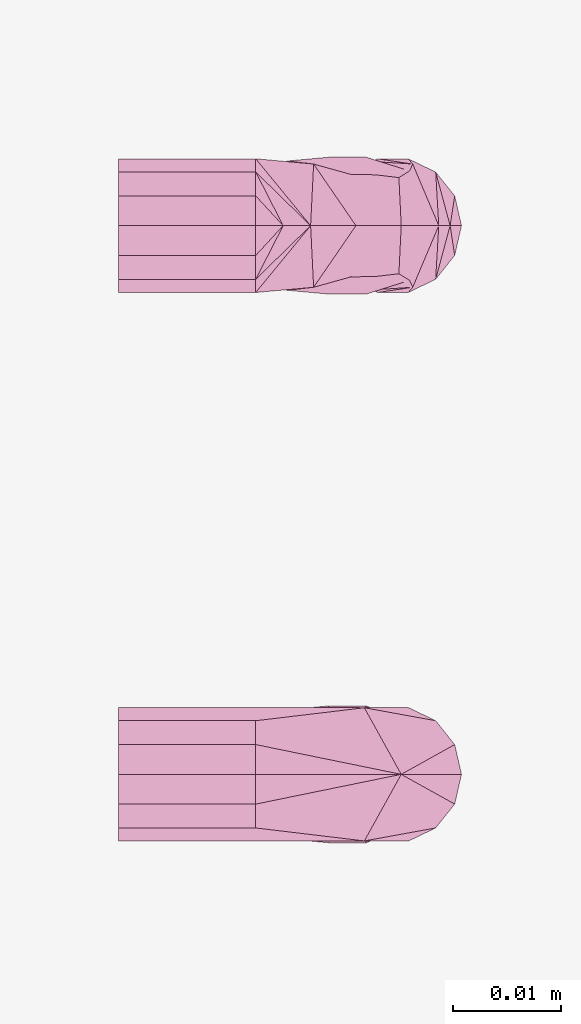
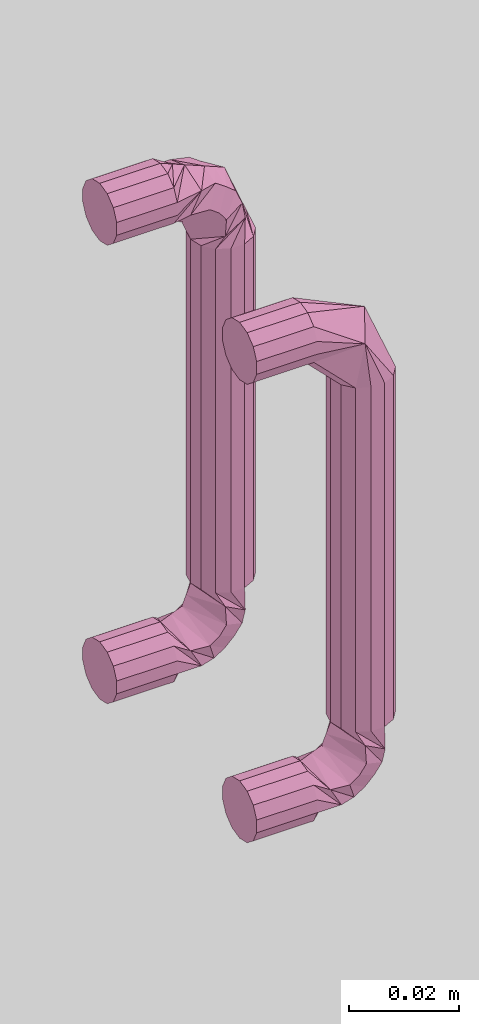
# One storey, part 38 of 40: 1 furnishing.
"""IFC2X3 building model written with IfcOpenShell, lengths in metres."""

import ifcopenshell
import ifcopenshell.guid

model = None  # the IFC model being written
_history = None  # IfcOwnerHistory: only IFC2X3 demands one
_inside = {}  # id of a spatial element -> (the spatial element, [elements in it])
_under = {}  # id of a project, library or spatial element -> (it, [spatial elements below it])
_declared = {}  # id of a project -> (the project, [libraries it declares])
_typed = {}  # id of a type object -> (the type object, [elements of that type])
_made_of = {}  # id of a material, layer set ... -> (it, [elements and type objects made of it])


def new_model(schema):
    """Start an empty IFC model of exactly this schema.

    Asked for "IFC4X3", IfcOpenShell would pick the latest addendum, in which some entities
    have other attributes; the version numbers below select the first issue.
    IFC2X3 requires an IfcOwnerHistory on every rooted entity: one is made here for all.
    """
    global model, _history
    if schema == "IFC4X3":
        model = ifcopenshell.file(schema_version=(4, 3, 0, 0))
    else:
        model = ifcopenshell.file(schema=schema)
    _inside.clear()
    _under.clear()
    _declared.clear()
    _typed.clear()
    _made_of.clear()
    _history = None
    if model.schema == "IFC2X3":
        org = make("IfcOrganization", Name="unknown")
        user = make(
            "IfcPersonAndOrganization",
            ThePerson=make("IfcPerson", FamilyName="unknown"),
            TheOrganization=org,
        )
        app = make(
            "IfcApplication",
            ApplicationDeveloper=org,
            Version="unknown",
            ApplicationFullName="unknown",
            ApplicationIdentifier="unknown",
        )
        _history = make(
            "IfcOwnerHistory",
            OwningUser=user,
            OwningApplication=app,
            ChangeAction="ADDED",
            CreationDate=0,
        )
    return model


def make(cls, **values):
    """One entity of the class cls with the attributes given. An attribute that is None is left unset."""
    return model.create_entity(
        cls, **{name: value for name, value in values.items() if value is not None}
    )


def entity(cls, *values):
    """Any entity or typed value of the class cls, its attributes in the order of the schema. None: left unset."""
    e = model.create_entity(cls)
    for i, value in enumerate(values):
        if value is not None:
            e[i] = value
    return e


def rooted(cls, **values):
    """An entity with a GlobalId (a new one), such as an element, a storey or a relation."""
    return make(cls, GlobalId=ifcopenshell.guid.new(), OwnerHistory=_history, **values)


def si_unit(unit_type, name, prefix=None):
    """IfcSIUnit, for example si_unit("LENGTHUNIT", "METRE", prefix="MILLI")."""
    return make("IfcSIUnit", UnitType=unit_type, Prefix=prefix, Name=name)


def converted_unit(unit_type, name, factor, base, dimensions=None, offset=None):
    """IfcConversionBasedUnit, such as the inch: factor (a typed value) times the base unit."""
    return make(
        "IfcConversionBasedUnit"
        if offset is None
        else "IfcConversionBasedUnitWithOffset",
        ConversionOffset=offset,
        Dimensions=None
        if dimensions is None
        else entity("IfcDimensionalExponents", *dimensions),
        UnitType=unit_type,
        Name=name,
        ConversionFactor=make(
            "IfcMeasureWithUnit", ValueComponent=factor, UnitComponent=base
        ),
    )


def derived_unit(unit_type, elements):
    """IfcDerivedUnit: a product of units, each with its exponent."""
    return make(
        "IfcDerivedUnit",
        Elements=[
            make("IfcDerivedUnitElement", Unit=unit, Exponent=power)
            for unit, power in elements
        ],
        UnitType=unit_type,
    )


def assignment(units):
    """IfcUnitAssignment: the units of a project."""
    return None if units is None else make("IfcUnitAssignment", Units=units)


def point(xyz):
    """IfcCartesianPoint."""
    return None if xyz is None else make("IfcCartesianPoint", Coordinates=xyz)


def direction(xyz):
    """IfcDirection."""
    return None if xyz is None else make("IfcDirection", DirectionRatios=xyz)


def frame(location, z_axis=None, x_axis=None):
    """IfcAxis2Placement3D, a coordinate frame: its origin and axes. An axis left out is left unset."""
    return make(
        "IfcAxis2Placement3D",
        Location=point(location),
        Axis=direction(z_axis),
        RefDirection=direction(x_axis),
    )


def origin():
    """The frame at (0, 0, 0) with its axes left unset."""
    return frame((0.0, 0.0, 0.0))


def place(relative_to, where):
    """IfcLocalPlacement: puts the frame where relative to a parent placement (None: the world)."""
    return make(
        "IfcLocalPlacement", PlacementRelTo=relative_to, RelativePlacement=where
    )


def context(
    kind, dimensions, precision=None, world=None, true_north=None, identifier=None
):
    """IfcGeometricRepresentationContext, for example the 3D "Model" context."""
    return make(
        "IfcGeometricRepresentationContext",
        ContextIdentifier=identifier,
        ContextType=kind,
        CoordinateSpaceDimension=dimensions,
        Precision=precision,
        WorldCoordinateSystem=world,
        TrueNorth=true_north,
    )


def subcontext(parent, identifier, kind, view, scale=None):
    """IfcGeometricRepresentationSubContext, for example "Body" below "Model"."""
    return make(
        "IfcGeometricRepresentationSubContext",
        ContextIdentifier=identifier,
        ContextType=kind,
        ParentContext=parent,
        TargetScale=scale,
        TargetView=view,
    )


def project(units=None, contexts=None):
    """IfcProject with its units and contexts."""
    return rooted(
        "IfcProject",
        Name="project",
        RepresentationContexts=contexts,
        UnitsInContext=assignment(units),
    )


def spatial(cls, under=None, at=None, **own):
    """A site, building, storey or space (cls), placed at a placement, below another one or the project."""
    s = rooted(cls, ObjectPlacement=at, **own)
    if under is not None:
        _under.setdefault(under.id(), (under, []))[1].append(s)
    return s


def faces_of(points, faces, orient=None, outer=None):
    """IfcFace entities. A face is a list of loops; a loop is a list of indices into points, from 0.

    orient and outer hold one flag for each loop. By default every Orientation is true, the
    first loop of a face is its IfcFaceOuterBound and the others are IfcFaceBound.
    """
    made = []
    for i, loops in enumerate(faces):
        bounds = []
        for j, loop in enumerate(loops):
            is_outer = j == 0 if outer is None else outer[i][j]
            bounds.append(
                make(
                    "IfcFaceOuterBound" if is_outer else "IfcFaceBound",
                    Bound=make("IfcPolyLoop", Polygon=[points[k] for k in loop]),
                    Orientation=True if orient is None else orient[i][j],
                )
            )
        made.append(make("IfcFace", Bounds=bounds))
    return made


def faceted_brep(points, faces, orient=None, outer=None, voids=None):
    """IfcFacetedBrep: a solid bounded by flat faces; with voids (closed shells), ...WithVoids."""
    shared = [point(p) for p in points]
    hull = make("IfcClosedShell", CfsFaces=faces_of(shared, faces, orient, outer))
    if voids is None:
        return make("IfcFacetedBrep", Outer=hull)
    return make(
        "IfcFacetedBrepWithVoids",
        Outer=hull,
        Voids=[
            make(cls, CfsFaces=faces_of(shared, fs, o, b)) for cls, fs, o, b in voids
        ],
    )


def shape(context_of_items, identifier, shape_type, items):
    """IfcShapeRepresentation: the items that make up one representation, for example the "Body"."""
    return make(
        "IfcShapeRepresentation",
        ContextOfItems=context_of_items,
        RepresentationIdentifier=identifier,
        RepresentationType=shape_type,
        Items=items,
    )


def source(mapping_origin, context_of_items, identifier, shape_type, items):
    """IfcRepresentationMap: a shape defined once, which mapped items show again and again."""
    return make(
        "IfcRepresentationMap",
        MappingOrigin=mapping_origin,
        MappedRepresentation=shape(context_of_items, identifier, shape_type, items),
    )


def transform(
    local_origin,
    x_axis=None,
    y_axis=None,
    z_axis=None,
    scale=None,
    scale2=None,
    scale3=None,
    uniform=True,
):
    """IfcCartesianTransformationOperator3D, or its non-uniform kind. x_axis, y_axis, z_axis: its Axis1, 2, 3."""
    if uniform:
        return make(
            "IfcCartesianTransformationOperator3D",
            Axis1=direction(x_axis),
            Axis2=direction(y_axis),
            LocalOrigin=point(local_origin),
            Scale=scale,
            Axis3=direction(z_axis),
        )
    return make(
        "IfcCartesianTransformationOperator3DnonUniform",
        Axis1=direction(x_axis),
        Axis2=direction(y_axis),
        LocalOrigin=point(local_origin),
        Scale=scale,
        Axis3=direction(z_axis),
        Scale2=scale2,
        Scale3=scale3,
    )


def mapped(mapping_source, mapping_target):
    """IfcMappedItem: shows the shape of a source again, moved by a transform."""
    return make(
        "IfcMappedItem", MappingSource=mapping_source, MappingTarget=mapping_target
    )


def material(Name=None, Category=None):
    """IfcMaterial."""
    return make("IfcMaterial", Name=Name, Category=Category)


def made_of(thing, what):
    """Note that an element or type object is made of a material, layer set ...; save() writes the relation."""
    if what is not None:
        _made_of.setdefault(what.id(), (what, []))[1].append(thing)
    return thing


def type_object(cls, material=None, **own):
    """A type object (cls), such as IfcWallType, which elements share."""
    return made_of(rooted(cls, **own), material)


def type_shapes(of_type, sources):
    """Give a type object the sources (RepresentationMaps) that its elements show as mapped items."""
    of_type.RepresentationMaps = sources


def element(
    cls,
    number,
    at=None,
    inside=None,
    cuts=None,
    type_object=None,
    material=None,
    context=None,
    identifier="Body",
    shape_type=None,
    held_by="IfcProductDefinitionShape",
    body=None,
    shapes=None,
    **own,
):
    """One element of the class cls, such as IfcWall. Its Tag is "e" and its number.

    at: its placement. inside: the storey or other place that contains it. cuts: it is an
    opening in that element (IfcRelVoidsElement). A single representation is given by context,
    identifier, shape_type and body (its items); several are given by shapes. held_by: the class
    of the entity that holds the representations. save() writes the other relations.
    """
    e = rooted(cls, Tag="e%d" % number, ObjectPlacement=at, **own)
    if body is not None:
        shapes = [shape(context, identifier, shape_type, body)]
    if shapes is not None:
        e.Representation = make(held_by, Representations=shapes)
    if inside is not None:
        _inside.setdefault(inside.id(), (inside, []))[1].append(e)
    if cuts is not None:
        rooted(
            "IfcRelVoidsElement", RelatingBuildingElement=cuts, RelatedOpeningElement=e
        )
    if type_object is not None:
        _typed.setdefault(type_object.id(), (type_object, []))[1].append(e)
    return made_of(e, material)


def aggregate(whole, parts):
    """IfcRelAggregates: a whole, such as a stair, and the parts it consists of."""
    return rooted("IfcRelAggregates", RelatingObject=whole, RelatedObjects=parts)


def save(model, path):
    """Write the relations noted so far, then the file.

    IfcRelAggregates (storeys below a building ...), IfcRelContainedInSpatialStructure (elements
    in a storey), IfcRelDefinesByType, IfcRelAssociatesMaterial and IfcRelDeclares: one each for
    every whole, place, type object, material and project.
    """
    for whole, parts in _under.values():
        aggregate(whole, parts)
    for where, things in _inside.values():
        rooted(
            "IfcRelContainedInSpatialStructure",
            RelatedElements=things,
            RelatingStructure=where,
        )
    for kind, things in _typed.values():
        rooted("IfcRelDefinesByType", RelatedObjects=things, RelatingType=kind)
    for what, things in _made_of.values():
        rooted("IfcRelAssociatesMaterial", RelatedObjects=things, RelatingMaterial=what)
    for by, libraries in _declared.values():
        rooted("IfcRelDeclares", RelatingContext=by, RelatedDefinitions=libraries)
    model.write(path)


model = new_model("IFC2X3")

# Units and contexts
model_context = context("Model", 3, precision=1e-05, world=origin(), true_north=direction((6.12303176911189e-17, 1.0)))
body_context = subcontext(model_context, "Body", "Model", "MODEL_VIEW")
ifc_project = project(units=[si_unit("LENGTHUNIT", "METRE"), si_unit("AREAUNIT", "SQUARE_METRE"), si_unit("VOLUMEUNIT", "CUBIC_METRE"), converted_unit("PLANEANGLEUNIT", "DEGREE", entity("IfcRatioMeasure", 0.0174532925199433), si_unit("PLANEANGLEUNIT", "RADIAN"), dimensions=[0, 0, 0, 0, 0, 0, 0]), si_unit("MASSUNIT", "GRAM", prefix="KILO"), derived_unit("MASSDENSITYUNIT", [(si_unit("MASSUNIT", "GRAM", prefix="KILO"), 1), (si_unit("LENGTHUNIT", "METRE"), -3)]), si_unit("TIMEUNIT", "SECOND"), si_unit("FREQUENCYUNIT", "HERTZ"), si_unit("THERMODYNAMICTEMPERATUREUNIT", "DEGREE_CELSIUS"), derived_unit("THERMALTRANSMITTANCEUNIT", [(si_unit("MASSUNIT", "GRAM", prefix="KILO"), 1), (si_unit("THERMODYNAMICTEMPERATUREUNIT", "KELVIN"), -1), (si_unit("TIMEUNIT", "SECOND"), -3)]), derived_unit("VOLUMETRICFLOWRATEUNIT", [(si_unit("LENGTHUNIT", "METRE"), 3), (si_unit("TIMEUNIT", "SECOND"), -1)]), si_unit("ELECTRICCURRENTUNIT", "AMPERE"), si_unit("ELECTRICVOLTAGEUNIT", "VOLT"), si_unit("POWERUNIT", "WATT"), si_unit("FORCEUNIT", "NEWTON", prefix="KILO"), si_unit("ILLUMINANCEUNIT", "LUX"), si_unit("LUMINOUSFLUXUNIT", "LUMEN"), si_unit("LUMINOUSINTENSITYUNIT", "CANDELA"), derived_unit("USERDEFINED", [(si_unit("MASSUNIT", "GRAM", prefix="KILO"), -1), (si_unit("LENGTHUNIT", "METRE"), -2), (si_unit("TIMEUNIT", "SECOND"), 3), (si_unit("LUMINOUSFLUXUNIT", "LUMEN"), 1)]), derived_unit("LINEARVELOCITYUNIT", [(si_unit("LENGTHUNIT", "METRE"), 1), (si_unit("TIMEUNIT", "SECOND"), -1)]), si_unit("PRESSUREUNIT", "PASCAL"), derived_unit("USERDEFINED", [(si_unit("LENGTHUNIT", "METRE"), -2), (si_unit("MASSUNIT", "GRAM", prefix="KILO"), 1), (si_unit("TIMEUNIT", "SECOND"), -2)])], contexts=[model_context])

# Site, building, storey, space
site_placement = place(None, origin())
site = spatial("IfcSite", under=ifc_project, at=site_placement, Name="Surface", CompositionType="ELEMENT")
building_placement = place(site_placement, origin())
building = spatial("IfcBuilding", under=site, at=building_placement, CompositionType="ELEMENT")
storey_placement = place(building_placement, origin())
storey = spatial("IfcBuildingStorey", under=building, at=storey_placement, Name="RDC", CompositionType="ELEMENT", Elevation=-1.0941605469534e-13)
space_placement = place(storey_placement, origin())
space = spatial("IfcSpace", under=storey, at=space_placement, Name="21", CompositionType="ELEMENT", InteriorOrExteriorSpace="INTERNAL")

# Furnishing
ifc_material = material(Name="Plastique - Noir")
furniture_type = type_object("IfcFurnitureType", Name="590 mm", material=ifc_material)
shared_shape = source(origin(), body_context, "Body", "Brep", [
    faceted_brep([(0.0536136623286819, 0.0, 0.10557833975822), (0.0558231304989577, 0.0, 0.103816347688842), (0.0585782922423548, 0.0, 0.103187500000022), (0.0613334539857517, 0.0, 0.103816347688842), (0.0635429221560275, 0.0, 0.10557833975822), (0.0647690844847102, 0.0, 0.108124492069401), (0.0647690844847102, 0.0, 0.110950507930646), (0.0635429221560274, 0.0, 0.113496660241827), (0.0613334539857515, 0.0, 0.115258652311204), (0.0585782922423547, 0.0, 0.115887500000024), (0.0558231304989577, 0.0, 0.115258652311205), (0.0536136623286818, 0.0, 0.113496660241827), (0.052387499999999, 0.0, 0.110950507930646), (0.052387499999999, 0.0, 0.1081244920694), (0.0585782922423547, 0.0, 0.0142875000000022), (0.0558231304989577, 0.0, 0.0136586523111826), (0.0536136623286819, 0.0, 0.0118966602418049), (0.0523874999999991, 0.0, 0.00935050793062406), (0.0523874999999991, 0.0, 0.00652449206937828), (0.0536136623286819, 0.0, 0.00397833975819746), (0.0558231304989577, 0.0, 0.00221634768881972), (0.0585782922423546, 0.0, 0.00158750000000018), (0.0613334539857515, 0.0, 0.00221634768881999), (0.0635429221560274, 0.0, 0.00397833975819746), (0.0647690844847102, 0.0, 0.00652449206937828), (0.0647690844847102, 0.0, 0.00935050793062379), (0.0635429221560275, 0.0, 0.0118966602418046), (0.0613334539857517, 0.0, 0.0136586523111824), (0.0585782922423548, 0.0127000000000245, 0.103187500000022), (0.0613334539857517, 0.0127000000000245, 0.103816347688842), (0.0635429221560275, 0.0127000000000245, 0.10557833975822), (0.0647690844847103, 0.0127000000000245, 0.108124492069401), (0.0647690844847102, 0.0127000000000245, 0.110950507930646), (0.0647690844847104, 0.0239869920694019, 0.0206375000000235), (0.0647690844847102, 0.0268130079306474, 0.0206375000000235), (0.0647690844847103, 0.0268130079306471, 0.0968375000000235), (0.0647690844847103, 0.0239869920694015, 0.0968375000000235), (0.0647690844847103, 0.0127000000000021, 0.00652449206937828), (0.0647690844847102, 0.0127000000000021, 0.00935050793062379), (0.0635429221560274, 0.0127000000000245, 0.113496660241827), (0.0613334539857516, 0.0127000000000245, 0.115258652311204), (0.0585782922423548, 0.0127000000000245, 0.115887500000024), (0.0558231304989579, 0.0127000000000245, 0.115258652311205), (0.053613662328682, 0.0127000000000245, 0.113496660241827), (0.0523874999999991, 0.0127000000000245, 0.110950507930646), (0.0523874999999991, 0.0127000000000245, 0.1081244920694), (0.0523874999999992, 0.0268130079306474, 0.0206375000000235), (0.0523874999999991, 0.0239869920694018, 0.0206375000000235), (0.0523874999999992, 0.0239869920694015, 0.0968375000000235), (0.0523874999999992, 0.0268130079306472, 0.0968375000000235), (0.0523874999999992, 0.0127000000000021, 0.00935050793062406), (0.0523874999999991, 0.0127000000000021, 0.00652449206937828), (0.0536136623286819, 0.0127000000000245, 0.10557833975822), (0.0558231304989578, 0.0127000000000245, 0.103816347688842), (0.0647426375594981, 0.0227580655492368, 0.106895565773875), (0.0635429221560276, 0.0214408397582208, 0.0968375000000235), (0.0613334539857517, 0.0196788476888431, 0.0968375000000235), (0.0585782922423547, 0.0261703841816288, 0.110307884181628), (0.0585782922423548, 0.0171901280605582, 0.101327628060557), (0.0585782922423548, 0.0190500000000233, 0.0968375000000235), (0.0635429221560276, 0.0293591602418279, 0.0968375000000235), (0.0613334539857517, 0.0311211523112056, 0.0968375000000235), (0.0585782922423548, 0.0317500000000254, 0.0968375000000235), (0.0524139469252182, 0.0227580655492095, 0.106895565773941), (0.0536136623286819, 0.0214408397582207, 0.0968375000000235), (0.0558231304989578, 0.019678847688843, 0.0968375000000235), (0.0536136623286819, 0.029359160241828, 0.0968375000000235), (0.0558231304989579, 0.0311211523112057, 0.0968375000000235), (0.0585782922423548, 0.0190500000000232, 0.0206375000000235), (0.0613334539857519, 0.0196788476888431, 0.0206375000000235), (0.0635429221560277, 0.021440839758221, 0.0206375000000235), (0.0635429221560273, 0.0293591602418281, 0.0206375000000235), (0.0613334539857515, 0.0311211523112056, 0.0206375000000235), (0.0595979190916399, 0.0315172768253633, 0.0206375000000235), (0.0585782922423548, 0.0317500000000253, 0.0206375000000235), (0.0575586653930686, 0.0315172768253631, 0.0206375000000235), (0.055823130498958, 0.0311211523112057, 0.0206375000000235), (0.0536136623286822, 0.0293591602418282, 0.0206375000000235), (0.0536136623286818, 0.0214408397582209, 0.0206375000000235), (0.0558231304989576, 0.019678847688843, 0.0206375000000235), (0.0642824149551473, 0.0180594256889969, 0.00610394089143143), (0.0585782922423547, 0.0177817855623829, 0.00369244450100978), (0.0585782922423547, 0.0198789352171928, 0.00456111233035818), (0.0585782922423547, 0.0219760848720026, 0.00542978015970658), (0.0585782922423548, 0.0314868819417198, 0.0200022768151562), (0.0585782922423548, 0.0306975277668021, 0.018096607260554), (0.0585782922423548, 0.0312237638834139, 0.0193670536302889), (0.064282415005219, 0.0272335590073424, 0.0152780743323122), (0.0585782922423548, 0.0296450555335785, 0.0155557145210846), (0.0585782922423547, 0.0279077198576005, 0.0113614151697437), (0.0633238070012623, 0.0271480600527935, 0.0118331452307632), (0.0585782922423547, 0.0270390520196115, 0.00926426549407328), (0.0632866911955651, 0.0255502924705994, 0.00956794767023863), (0.0649134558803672, 0.0229286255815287, 0.0138673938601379), (0.0585782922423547, 0.0287763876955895, 0.0134585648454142), (0.0630302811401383, 0.0237059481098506, 0.00738339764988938), (0.0585782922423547, 0.0261703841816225, 0.00716711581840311), (0.0645648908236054, 0.0228709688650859, 0.017714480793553), (0.0595979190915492, 0.0127000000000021, 0.00182022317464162), (0.0585782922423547, 0.0127000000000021, 0.00158749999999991), (0.0585782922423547, 0.0133352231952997, 0.00185061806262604), (0.0585782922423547, 0.0139704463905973, 0.00211373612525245), (0.0585782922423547, 0.0152408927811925, 0.00263997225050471), (0.0613334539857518, 0.0127000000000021, 0.00221634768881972), (0.0645648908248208, 0.0156230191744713, 0.010466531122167), (0.0635429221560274, 0.0127000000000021, 0.0118966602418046), (0.0585782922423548, 0.0127000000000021, 0.0142875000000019), (0.0613334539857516, 0.0127000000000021, 0.0136586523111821), (0.0635429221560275, 0.0127000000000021, 0.00397833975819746), (0.0585782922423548, 0.014945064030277, 0.0152174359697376), (0.0585782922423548, 0.0181200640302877, 0.0183924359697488), (0.0585782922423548, 0.0171901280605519, 0.0161473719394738), (0.0649134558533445, 0.0194701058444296, 0.0104088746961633), (0.0649215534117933, 0.0214734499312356, 0.0118640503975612), (0.0636450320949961, 0.0210762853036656, 0.00638969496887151), (0.0585782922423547, 0.0240732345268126, 0.00629844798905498), (0.05287416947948, 0.0272335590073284, 0.0152780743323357), (0.052874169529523, 0.0180594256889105, 0.00610394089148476), (0.0575586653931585, 0.0127000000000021, 0.00182022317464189), (0.0558231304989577, 0.0127000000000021, 0.00221634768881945), (0.0525916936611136, 0.0228709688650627, 0.0177144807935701), (0.0522350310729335, 0.0214734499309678, 0.0118640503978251), (0.0522431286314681, 0.0194701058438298, 0.0104088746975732), (0.0541263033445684, 0.0237059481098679, 0.00738339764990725), (0.0536136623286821, 0.0127000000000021, 0.0118966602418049), (0.0525916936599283, 0.0156230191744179, 0.0104665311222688), (0.0522431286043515, 0.0229286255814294, 0.0138673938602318), (0.0536136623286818, 0.0127000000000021, 0.00397833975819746), (0.0535115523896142, 0.0210762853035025, 0.00638969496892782), (0.0538698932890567, 0.0255502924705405, 0.00956794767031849), (0.0538327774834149, 0.0271480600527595, 0.011833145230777), (0.0558231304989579, 0.0127000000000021, 0.0136586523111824)], [[[0, 1, 2, 3, 4, 5, 6, 7, 8, 9, 10, 11, 12, 13]], [[14, 15, 16, 17, 18, 19, 20, 21, 22, 23, 24, 25, 26, 27]], [[2, 28, 29, 3]], [[29, 30, 4, 3]], [[31, 5, 4, 30]], [[31, 32, 6, 5]], [[33, 34, 35, 36]], [[25, 24, 37, 38]], [[6, 32, 39, 7]], [[39, 40, 8, 7]], [[41, 9, 8, 40]], [[9, 41, 42, 10]], [[42, 43, 11, 10]], [[44, 12, 11, 43]], [[44, 45, 13, 12]], [[46, 47, 48, 49]], [[18, 17, 50, 51]], [[13, 45, 52, 0]], [[52, 53, 1, 0]], [[28, 2, 1, 53]], [[54, 31, 30]], [[55, 30, 29, 56]], [[39, 54, 57]], [[54, 30, 55]], [[41, 40, 57]], [[32, 54, 39]], [[54, 32, 31]], [[39, 57, 40]], [[29, 28, 58]], [[58, 59, 56]], [[60, 54, 35]], [[36, 54, 55]], [[57, 54, 60]], [[57, 61, 62]], [[60, 61, 57]], [[54, 36, 35]], [[58, 56, 29]], [[42, 41, 57]], [[57, 63, 43]], [[57, 43, 42]], [[45, 44, 63]], [[43, 63, 44]], [[64, 65, 53, 52]], [[58, 28, 53]], [[45, 63, 52]], [[49, 48, 63]], [[63, 66, 49]], [[67, 66, 57]], [[64, 63, 48]], [[59, 58, 65]], [[66, 63, 57]], [[65, 58, 53]], [[52, 63, 64]], [[67, 57, 62]], [[59, 68, 69, 56]], [[70, 33, 36, 55]], [[56, 69, 70, 55]], [[34, 71, 60, 35]], [[61, 72, 73, 74, 62]], [[71, 72, 61, 60]], [[62, 74, 75, 76, 67]], [[76, 77, 66, 67]], [[46, 49, 66, 77]], [[48, 47, 78, 64]], [[64, 78, 79, 65]], [[65, 79, 68, 59]], [[80, 81, 82, 83]], [[84, 74, 73, 72, 85, 86]], [[34, 87, 88]], [[71, 85, 72]], [[89, 90, 91]], [[92, 90, 93]], [[87, 89, 94, 88]], [[87, 34, 33]], [[92, 95, 96]], [[87, 33, 70]], [[88, 71, 34]], [[70, 69, 97]], [[98, 99, 100, 101, 102, 103]], [[92, 91, 90]], [[104, 105, 80]], [[104, 106, 107]], [[107, 105, 104]], [[102, 81, 108]], [[88, 85, 71]], [[91, 92, 96]], [[81, 37, 108]], [[104, 109, 106]], [[97, 110, 93]], [[102, 108, 103]], [[70, 97, 87]], [[111, 112, 113]], [[38, 80, 105]], [[80, 38, 37]], [[114, 95, 112]], [[68, 97, 69]], [[90, 97, 93]], [[114, 104, 80]], [[112, 109, 104]], [[110, 97, 68]], [[110, 111, 93]], [[93, 113, 92]], [[92, 113, 95]], [[112, 104, 114]], [[114, 115, 95]], [[89, 87, 90]], [[97, 90, 87]], [[111, 113, 93]], [[95, 113, 112]], [[80, 83, 114]], [[112, 111, 109]], [[115, 114, 83]], [[115, 96, 95]], [[81, 80, 37]], [[75, 74, 84, 86, 85, 76]], [[88, 46, 77]], [[116, 88, 94, 89]], [[117, 83, 82, 81]], [[76, 85, 77]], [[118, 119, 102, 101, 100, 99]], [[78, 120, 79]], [[79, 120, 68]], [[121, 122, 111]], [[123, 122, 121]], [[124, 125, 117]], [[110, 120, 126]], [[47, 116, 78]], [[50, 117, 51]], [[81, 127, 51]], [[116, 47, 46]], [[128, 122, 123]], [[85, 88, 77]], [[88, 116, 46]], [[120, 78, 116]], [[124, 117, 50]], [[127, 102, 119]], [[81, 102, 127]], [[121, 111, 126]], [[91, 129, 130]], [[117, 81, 51]], [[91, 130, 89]], [[91, 96, 129]], [[124, 131, 125]], [[130, 120, 116]], [[126, 111, 110]], [[106, 125, 131]], [[128, 125, 122]], [[126, 130, 129]], [[68, 120, 110]], [[123, 129, 96]], [[121, 126, 129]], [[128, 115, 83]], [[128, 117, 125]], [[120, 130, 126]], [[116, 89, 130]], [[123, 121, 129]], [[125, 109, 122]], [[128, 123, 115]], [[83, 117, 128]], [[123, 96, 115]], [[109, 125, 106]], [[109, 111, 122]], [[106, 14, 27, 107]], [[27, 26, 105, 107]], [[25, 38, 105, 26]], [[37, 24, 23, 108]], [[23, 22, 103, 108]], [[21, 99, 98, 103, 22]], [[99, 21, 20, 119, 118]], [[20, 19, 127, 119]], [[18, 51, 127, 19]], [[50, 17, 16, 124]], [[16, 15, 131, 124]], [[14, 106, 131, 15]]]),
    faceted_brep([(0.00502313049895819, 0.0, 0.103816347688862), (0.00777829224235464, 0.0, 0.103187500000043), (0.0105334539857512, 0.0, 0.103816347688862), (0.0127429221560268, 0.0, 0.10557833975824), (0.0139690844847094, 0.0, 0.10812449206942), (0.0139690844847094, 0.0, 0.110950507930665), (0.0127429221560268, 0.0, 0.113496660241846), (0.0105334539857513, 0.0, 0.115258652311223), (0.00777829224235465, 0.0, 0.115887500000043), (0.00502313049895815, 0.0, 0.115258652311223), (0.00281366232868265, 0.0, 0.113496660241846), (0.00158750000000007, 0.0, 0.110950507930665), (0.00158750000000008, 0.0, 0.10812449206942), (0.00281366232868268, 0.0, 0.10557833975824), (0.0127429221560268, 0.0, 0.003978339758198), (0.0139690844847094, 0.0, 0.00652449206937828), (0.0139690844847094, 0.0, 0.00935050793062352), (0.0127429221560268, 0.0, 0.0118966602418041), (0.0105334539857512, 0.0, 0.0136586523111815), (0.0077782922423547, 0.0, 0.0142875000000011), (0.00502313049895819, 0.0, 0.0136586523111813), (0.00281366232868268, 0.0, 0.0118966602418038), (0.00158750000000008, 0.0, 0.00935050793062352), (0.00158750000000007, 0.0, 0.00652449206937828), (0.00281366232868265, 0.0, 0.003978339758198), (0.00502313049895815, 0.0, 0.00221634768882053), (0.00777829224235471, 0.0, 0.00158750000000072), (0.0105334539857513, 0.0, 0.00221634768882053), (0.0077782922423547, 0.0126999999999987, 0.103187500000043), (0.0105334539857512, 0.0126999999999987, 0.103816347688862), (0.0127429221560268, 0.0126999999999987, 0.10557833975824), (0.0139690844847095, 0.0126999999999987, 0.10812449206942), (0.0139690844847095, 0.0126999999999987, 0.110950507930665), (0.0139690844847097, 0.023986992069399, 0.0206375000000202), (0.0139690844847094, 0.0268130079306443, 0.0206375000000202), (0.0139690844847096, 0.0268130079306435, 0.0968375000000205), (0.0139690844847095, 0.0239869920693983, 0.0968375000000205), (0.0139690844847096, 0.0127000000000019, 0.00652449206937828), (0.0139690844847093, 0.0127000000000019, 0.00935050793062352), (0.012742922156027, 0.0126999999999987, 0.113496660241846), (0.0105334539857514, 0.0126999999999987, 0.115258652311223), (0.00879791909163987, 0.0126999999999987, 0.115654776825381), (0.00777829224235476, 0.0126999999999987, 0.115887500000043), (0.00675866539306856, 0.0126999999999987, 0.11565477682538), (0.00502313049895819, 0.0126999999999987, 0.115258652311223), (0.00281366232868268, 0.0126999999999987, 0.113496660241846), (0.00158750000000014, 0.0126999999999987, 0.110950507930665), (0.00158750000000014, 0.0126999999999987, 0.10812449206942), (0.00158750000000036, 0.0268130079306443, 0.0206375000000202), (0.00158750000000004, 0.0239869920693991, 0.0206375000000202), (0.0015875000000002, 0.0239869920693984, 0.0968375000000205), (0.0015875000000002, 0.0268130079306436, 0.0968375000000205), (0.00158750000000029, 0.0127000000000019, 0.00935050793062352), (0.0015875, 0.0127000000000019, 0.00652449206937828), (0.00281366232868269, 0.0126999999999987, 0.10557833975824), (0.00502313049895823, 0.0126999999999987, 0.103816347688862), (0.0134824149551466, 0.0272335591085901, 0.102196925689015), (0.00777829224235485, 0.0296450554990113, 0.101919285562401), (0.00777829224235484, 0.0287763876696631, 0.104016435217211), (0.00777829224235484, 0.0279077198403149, 0.106113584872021), (0.00777829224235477, 0.0133352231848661, 0.115624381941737), (0.00777829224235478, 0.0152408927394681, 0.114835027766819), (0.00777829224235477, 0.0139704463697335, 0.115361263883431), (0.0134824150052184, 0.0180594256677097, 0.11137105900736), (0.00777829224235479, 0.0177817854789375, 0.113782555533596), (0.00777829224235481, 0.0219760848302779, 0.112045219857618), (0.0125238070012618, 0.0215043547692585, 0.111285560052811), (0.00777829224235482, 0.0240732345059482, 0.111176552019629), (0.0137648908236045, 0.015623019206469, 0.107008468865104), (0.00777829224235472, 0.0149450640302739, 0.102257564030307), (0.0141134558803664, 0.0194701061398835, 0.107066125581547), (0.0077782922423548, 0.0198789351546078, 0.112913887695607), (0.0124866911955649, 0.0237695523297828, 0.109687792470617), (0.0122302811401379, 0.0259541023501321, 0.107843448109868), (0.00777829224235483, 0.0261703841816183, 0.11030788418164), (0.00879791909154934, 0.0315172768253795, 0.0968375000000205), (0.00777829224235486, 0.0317500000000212, 0.0968375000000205), (0.00777829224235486, 0.031486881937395, 0.097472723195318), (0.00777829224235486, 0.0312237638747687, 0.0981079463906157), (0.00777829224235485, 0.0306975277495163, 0.0993783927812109), (0.0105334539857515, 0.0311211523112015, 0.0968375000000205), (0.0137648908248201, 0.022870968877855, 0.0997605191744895), (0.0127429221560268, 0.0214408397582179, 0.0968375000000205), (0.00777829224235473, 0.0190500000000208, 0.0968375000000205), (0.0105334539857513, 0.0196788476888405, 0.0968375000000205), (0.012742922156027, 0.029359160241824, 0.0968375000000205), (0.00777829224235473, 0.0181200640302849, 0.0990825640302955), (0.00777829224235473, 0.017190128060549, 0.101327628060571), (0.0141134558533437, 0.0229286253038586, 0.103607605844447), (0.0141215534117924, 0.0214734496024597, 0.105610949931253), (0.0128450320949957, 0.0269478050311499, 0.105213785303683), (0.00777829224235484, 0.0270390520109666, 0.10821073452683), (0.00207416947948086, 0.0180594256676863, 0.111371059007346), (0.00207416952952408, 0.0272335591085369, 0.102196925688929), (0.00675866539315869, 0.0315172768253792, 0.0968375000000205), (0.0050231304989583, 0.0311211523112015, 0.0968375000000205), (0.00179169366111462, 0.0156230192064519, 0.107008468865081), (0.00143503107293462, 0.0214734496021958, 0.105610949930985), (0.00144312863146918, 0.0229286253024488, 0.103607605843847), (0.00332630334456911, 0.0259541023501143, 0.107843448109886), (0.00281366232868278, 0.0214408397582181, 0.0968375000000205), (0.00179169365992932, 0.0228709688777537, 0.0997605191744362), (0.00281366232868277, 0.029359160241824, 0.0968375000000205), (0.00271155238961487, 0.0269478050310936, 0.10521378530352), (0.00144312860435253, 0.0194701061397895, 0.107066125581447), (0.00306989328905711, 0.0237695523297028, 0.109687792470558), (0.00303277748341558, 0.0215043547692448, 0.111285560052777), (0.00502313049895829, 0.0196788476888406, 0.0968375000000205), (0.00777829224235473, 0.0190500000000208, 0.0206375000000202), (0.0105334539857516, 0.0196788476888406, 0.0206375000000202), (0.0127429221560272, 0.0214408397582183, 0.0206375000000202), (0.0127429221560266, 0.0293591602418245, 0.0206375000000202), (0.0105334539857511, 0.0311211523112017, 0.0206375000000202), (0.00879791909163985, 0.0315172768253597, 0.0206375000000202), (0.00777829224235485, 0.0317500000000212, 0.0206375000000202), (0.00675866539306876, 0.0315172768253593, 0.0206375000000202), (0.00502313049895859, 0.0311211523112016, 0.0206375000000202), (0.00281366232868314, 0.0293591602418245, 0.0206375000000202), (0.00281366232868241, 0.0214408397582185, 0.0206375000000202), (0.005023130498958, 0.0196788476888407, 0.0206375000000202), (0.0134824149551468, 0.0180594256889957, 0.00610394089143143), (0.00777829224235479, 0.0177817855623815, 0.00369244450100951), (0.0077782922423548, 0.0198789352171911, 0.00456111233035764), (0.00777829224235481, 0.0219760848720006, 0.00542978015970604), (0.00777829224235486, 0.0314868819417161, 0.0200022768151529), (0.00777829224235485, 0.0306975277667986, 0.0180966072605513), (0.00777829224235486, 0.0312237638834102, 0.0193670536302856), (0.0134824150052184, 0.0272335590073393, 0.01527807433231), (0.00777829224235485, 0.0296450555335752, 0.0155557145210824), (0.00777829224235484, 0.0279077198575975, 0.0113614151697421), (0.0125238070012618, 0.0271480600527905, 0.0118331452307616), (0.00777829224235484, 0.0270390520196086, 0.00926426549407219), (0.0137648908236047, 0.0228709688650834, 0.0177144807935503), (0.00777829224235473, 0.018120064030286, 0.018392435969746), (0.0141134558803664, 0.0229286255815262, 0.013867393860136), (0.00777829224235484, 0.0287763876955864, 0.0134585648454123), (0.0124866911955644, 0.0255502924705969, 0.00956794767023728), (0.0122302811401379, 0.0237059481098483, 0.00738339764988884), (0.00777829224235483, 0.0261703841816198, 0.0071671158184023), (0.00879791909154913, 0.0127000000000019, 0.00182022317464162), (0.00777829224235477, 0.0127000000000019, 0.00158750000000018), (0.00777829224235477, 0.0133352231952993, 0.00185061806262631), (0.00777829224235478, 0.0139704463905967, 0.00211373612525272), (0.00777829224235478, 0.0152408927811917, 0.00263997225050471), (0.0105334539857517, 0.0127000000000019, 0.00221634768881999), (0.01376489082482, 0.0156230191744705, 0.0104665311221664), (0.0127429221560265, 0.0127000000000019, 0.0118966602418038), (0.0077782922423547, 0.0127000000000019, 0.0142875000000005), (0.0105334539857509, 0.0127000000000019, 0.013658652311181), (0.0127429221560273, 0.0127000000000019, 0.00397833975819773), (0.00777829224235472, 0.0149450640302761, 0.0152174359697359), (0.00777829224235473, 0.0171901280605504, 0.0161473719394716), (0.0141134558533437, 0.0194701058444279, 0.0104088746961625), (0.0141215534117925, 0.021473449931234, 0.0118640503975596), (0.0128450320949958, 0.0210762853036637, 0.00638969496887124), (0.00777829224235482, 0.0240732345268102, 0.00629844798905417), (0.00207416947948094, 0.0272335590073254, 0.0152780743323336), (0.00207416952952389, 0.0180594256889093, 0.00610394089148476), (0.00675866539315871, 0.0127000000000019, 0.00182022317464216), (0.00502313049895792, 0.0127000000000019, 0.00221634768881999), (0.00179169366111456, 0.0228709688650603, 0.0177144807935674), (0.00143503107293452, 0.0214734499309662, 0.0118640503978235), (0.00144312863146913, 0.0194701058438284, 0.0104088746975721), (0.00332630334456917, 0.0237059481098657, 0.00738339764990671), (0.00281366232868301, 0.0127000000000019, 0.0118966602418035), (0.00179169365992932, 0.015623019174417, 0.0104665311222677), (0.00281366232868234, 0.0127000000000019, 0.00397833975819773), (0.00271155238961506, 0.0210762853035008, 0.00638969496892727), (0.0014431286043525, 0.0229286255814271, 0.0138673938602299), (0.00306989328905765, 0.0255502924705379, 0.00956794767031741), (0.00303277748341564, 0.0271480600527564, 0.0118331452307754), (0.00502313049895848, 0.0127000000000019, 0.0136586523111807)], [[[0, 1, 2, 3, 4, 5, 6, 7, 8, 9, 10, 11, 12, 13]], [[14, 15, 16, 17, 18, 19, 20, 21, 22, 23, 24, 25, 26, 27]], [[1, 28, 29, 2]], [[29, 30, 3, 2]], [[31, 4, 3, 30]], [[31, 32, 5, 4]], [[33, 34, 35, 36]], [[16, 15, 37, 38]], [[5, 32, 39, 6]], [[39, 40, 7, 6]], [[7, 40, 41, 42, 8]], [[8, 42, 43, 44, 9]], [[44, 45, 10, 9]], [[46, 11, 10, 45]], [[46, 47, 12, 11]], [[48, 49, 50, 51]], [[23, 22, 52, 53]], [[12, 47, 54, 13]], [[54, 55, 0, 13]], [[28, 1, 0, 55]], [[56, 57, 58, 59]], [[60, 42, 41, 40, 61, 62]], [[32, 63, 64]], [[39, 61, 40]], [[65, 66, 67]], [[68, 69, 70]], [[63, 65, 71, 64]], [[63, 32, 31]], [[72, 73, 74]], [[63, 31, 30]], [[64, 39, 32]], [[30, 29, 68]], [[75, 76, 77, 78, 79, 80]], [[72, 67, 66]], [[81, 82, 56]], [[81, 83, 84]], [[84, 82, 81]], [[79, 57, 85]], [[64, 61, 39]], [[67, 72, 74]], [[57, 35, 85]], [[81, 86, 83]], [[68, 28, 69]], [[79, 85, 80]], [[30, 68, 63]], [[87, 88, 89]], [[36, 56, 82]], [[56, 36, 35]], [[90, 73, 88]], [[28, 68, 29]], [[66, 68, 70]], [[90, 81, 56]], [[88, 86, 81]], [[72, 66, 70]], [[87, 70, 69]], [[70, 89, 72]], [[72, 89, 73]], [[88, 81, 90]], [[90, 91, 73]], [[65, 63, 66]], [[68, 66, 63]], [[87, 89, 70]], [[73, 89, 88]], [[56, 59, 90]], [[88, 87, 86]], [[91, 90, 59]], [[91, 74, 73]], [[57, 56, 35]], [[43, 42, 60, 62, 61, 44]], [[64, 46, 45]], [[92, 64, 71, 65]], [[93, 59, 58, 57]], [[44, 61, 45]], [[94, 95, 79, 78, 77, 76]], [[54, 96, 55]], [[55, 96, 28]], [[97, 98, 87]], [[99, 98, 97]], [[100, 101, 93]], [[69, 28, 96]], [[47, 92, 54]], [[50, 93, 51]], [[57, 102, 51]], [[92, 47, 46]], [[103, 98, 99]], [[61, 64, 45]], [[64, 92, 46]], [[96, 54, 92]], [[100, 93, 50]], [[102, 79, 95]], [[57, 79, 102]], [[97, 87, 104]], [[67, 105, 106]], [[93, 57, 51]], [[67, 106, 65]], [[67, 74, 105]], [[100, 107, 101]], [[106, 96, 92]], [[104, 69, 96]], [[83, 101, 107]], [[103, 101, 98]], [[104, 87, 69]], [[104, 106, 105]], [[99, 105, 74]], [[97, 104, 105]], [[103, 91, 59]], [[103, 93, 101]], [[96, 106, 104]], [[92, 65, 106]], [[99, 97, 105]], [[101, 86, 98]], [[103, 99, 91]], [[59, 93, 103]], [[99, 74, 91]], [[86, 101, 83]], [[86, 87, 98]], [[83, 108, 109, 84]], [[109, 110, 82, 84]], [[33, 36, 82, 110]], [[35, 34, 111, 85]], [[85, 111, 112, 80]], [[80, 112, 113, 114, 76, 75]], [[76, 114, 115, 116, 95, 94]], [[117, 48, 51, 102]], [[95, 116, 117, 102]], [[49, 118, 100, 50]], [[119, 108, 83, 107]], [[118, 119, 107, 100]], [[120, 121, 122, 123]], [[124, 114, 113, 112, 125, 126]], [[34, 127, 128]], [[111, 125, 112]], [[129, 130, 131]], [[132, 133, 134]], [[127, 129, 135, 128]], [[127, 34, 33]], [[136, 137, 138]], [[127, 33, 110]], [[128, 111, 34]], [[110, 109, 132]], [[139, 140, 141, 142, 143, 144]], [[136, 131, 130]], [[145, 146, 120]], [[145, 147, 148]], [[148, 146, 145]], [[143, 121, 149]], [[128, 125, 111]], [[131, 136, 138]], [[121, 37, 149]], [[145, 150, 147]], [[132, 108, 133]], [[143, 149, 144]], [[110, 132, 127]], [[151, 152, 153]], [[38, 120, 146]], [[120, 38, 37]], [[154, 137, 152]], [[108, 132, 109]], [[130, 132, 134]], [[154, 145, 120]], [[152, 150, 145]], [[136, 130, 134]], [[151, 134, 133]], [[134, 153, 136]], [[136, 153, 137]], [[152, 145, 154]], [[154, 155, 137]], [[129, 127, 130]], [[132, 130, 127]], [[151, 153, 134]], [[137, 153, 152]], [[120, 123, 154]], [[152, 151, 150]], [[155, 154, 123]], [[155, 138, 137]], [[121, 120, 37]], [[115, 114, 124, 126, 125, 116]], [[128, 48, 117]], [[156, 128, 135, 129]], [[157, 123, 122, 121]], [[116, 125, 117]], [[158, 159, 143, 142, 141, 140]], [[118, 160, 119]], [[119, 160, 108]], [[161, 162, 151]], [[163, 162, 161]], [[164, 165, 157]], [[133, 108, 160]], [[49, 156, 118]], [[52, 157, 53]], [[121, 166, 53]], [[156, 49, 48]], [[167, 162, 163]], [[125, 128, 117]], [[128, 156, 48]], [[160, 118, 156]], [[164, 157, 52]], [[166, 143, 159]], [[121, 143, 166]], [[161, 151, 168]], [[131, 169, 170]], [[157, 121, 53]], [[131, 170, 129]], [[131, 138, 169]], [[164, 171, 165]], [[170, 160, 156]], [[168, 133, 160]], [[147, 165, 171]], [[167, 165, 162]], [[168, 151, 133]], [[168, 170, 169]], [[163, 169, 138]], [[161, 168, 169]], [[167, 155, 123]], [[167, 157, 165]], [[160, 170, 168]], [[156, 129, 170]], [[163, 161, 169]], [[165, 150, 162]], [[167, 163, 155]], [[123, 157, 167]], [[163, 138, 155]], [[150, 165, 147]], [[150, 151, 162]], [[147, 19, 18, 148]], [[18, 17, 146, 148]], [[16, 38, 146, 17]], [[37, 15, 14, 149]], [[14, 27, 144, 149]], [[26, 140, 139, 144, 27]], [[140, 26, 25, 159, 158]], [[25, 24, 166, 159]], [[23, 53, 166, 24]], [[52, 22, 21, 164]], [[21, 20, 171, 164]], [[19, 147, 171, 20]]]),
])
type_shapes(furniture_type, [shared_shape])
furnishing_placement = place(space_placement, frame((-2.18978888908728, 7.28518896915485, 1.44286249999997), z_axis=(0.0, 0.0, 1.0), x_axis=(0.0, -1.0, 0.0)))
element("IfcFurnishingElement", 1, at=furnishing_placement, inside=space, type_object=furniture_type, material=ifc_material, Name="Placard mural haut-Porte double vitrée:590 mm", ObjectType="590 mm", context=body_context, shape_type="MappedRepresentation", body=[
    mapped(shared_shape, transform((0.0, 0.0, 0.0), scale=1.0)),
])

save(model, "model.ifc")
